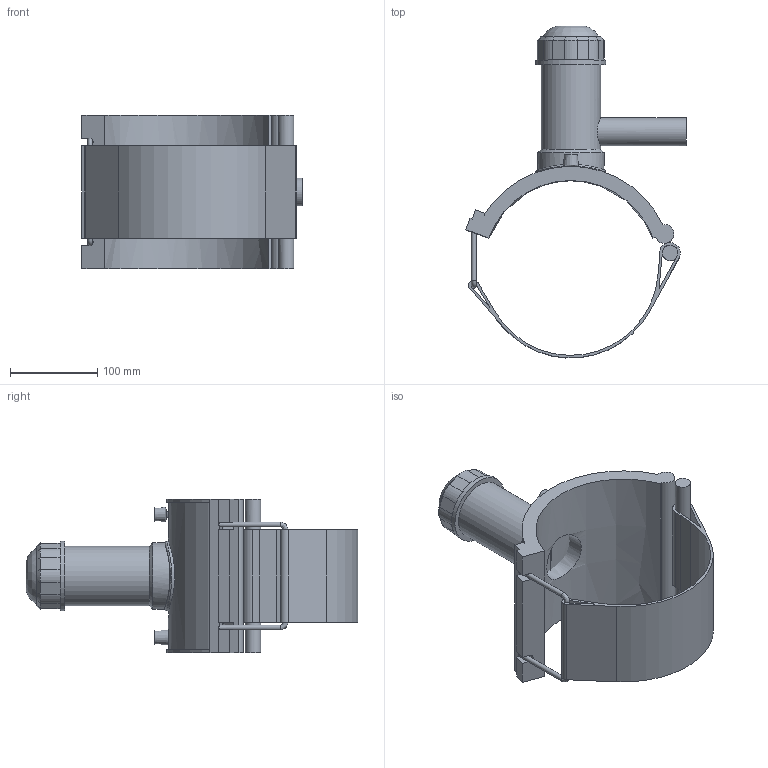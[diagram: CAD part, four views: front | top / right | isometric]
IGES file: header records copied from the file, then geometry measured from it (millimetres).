
Global section: file name: 496304200032.ipt; native system: Autodesk Inventor 2015; preprocessor: unknown; author: KIM; date: 20190124.131138; units: millimetre
Bounding box: 252.28 x 379.84 x 176 mm (x, y, z)
Volume: 1279391.2 mm3; surface area: 306722.3 mm2
Topology: 2 solids, 2 shells, 121 faces, 301 edges, 191 vertices
Faces by surface type: plane 68, cylinder 29, revolution 12, cone 11, bspline 1
Full cylindrical faces by diameter (mm): 4 x2, 5.6 x2, 17.692 x1, 32 x1, 68 x1, 76 x1, 80 x2
